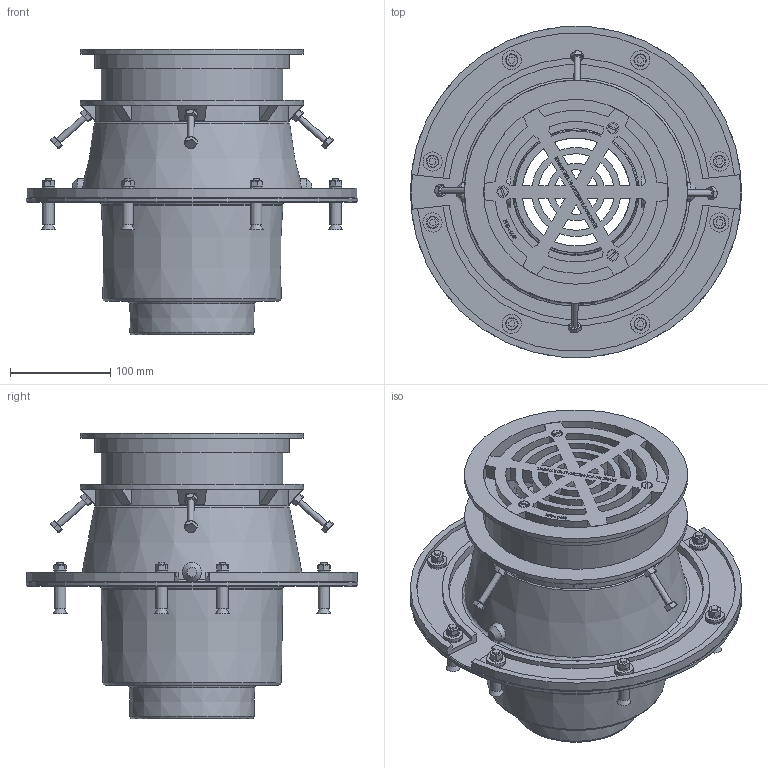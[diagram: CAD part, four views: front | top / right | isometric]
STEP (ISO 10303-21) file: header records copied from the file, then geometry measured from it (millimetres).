
FILE_DESCRIPTION(/* description */ (''),/* implementation_level */ '2;1');
FILE_NAME(/* name */ 'C:\2014_Work\Designs\CFD\CFD6.stp',/* time_stamp */ '2014-05-12T11:00:39-04:00',/* author */ ('mleuck'),/* organization */ (''),/* preprocessor_version */ 'ST-DEVELOPER v15.2',/* originating_system */ 'Autodesk Inventor 2014',/* authorisation */ '');
FILE_SCHEMA (('AUTOMOTIVE_DESIGN { 1 0 10303 214 3 1 1 }'));
Length unit declared in the file: inch
Products named in the file (16): D-1440-4 CFD BOTTOM CAST; D-1440-4 CFD TOP CAST; D-1440-4 WEEP HOLE PLUG; ANSI B18.6.2 - 1_4-20 UNC - 0.75(16); D-1440-4  CFD CAST IRON RINGS; ANSI B18.2.2 - 1_4 - 20(2); ASME B18.21.1 - 1_4(2); ANSI B18.22.1 - 1_4 - Regular - Type B; D-1440-4 SLEEVE; D-1440-4 ANCHOR BOLT; D-1440-4 CFD ANCHOR GROMMET; D-1440-4 CFD ANCHOR; D-1440-4 CFD ADJUSTING BOLT; C-1971-2 CFD EXTENSION RING - 2 INCH SPACER; A-16574 GRATE FOR CDF (D-1440); D-1440-4 CFD FLOATING FLOOR DRAIN WITH 2 INCH EXTENSION RING
Bounding box: 330.2 x 330.2 x 284.42 mm (x, y, z)
Volume: 2640778.3 mm3; surface area: 1049210.2 mm2
Topology: 67 solids, 67 shells, 1380 faces, 3265 edges, 2091 vertices
Faces by surface type: plane 725, cone 322, cylinder 194, bspline 115, torus 24
Full cylindrical faces by diameter (mm): 4.978 x22, 6.35 x15, 6.401 x3, 7.137 x8, 7.938 x19, 11.112 x8, 11.125 x4, 12.7 x16, 18.644 x8, 19.05 x14, 31.75 x2, 146.05 x1, 155.575 x1, 168.275 x1, 171.45 x1, 180.975 x1, 184.15 x2, 193.675 x2, 222.25 x2, 330.2 x1
Entity records: 27537 total; most frequent: CARTESIAN_POINT 7116, ORIENTED_EDGE 4184, DIRECTION 3772, EDGE_CURVE 2092, VERTEX_POINT 1439, AXIS2_PLACEMENT_3D 1284, LINE 1204, VECTOR 1204
